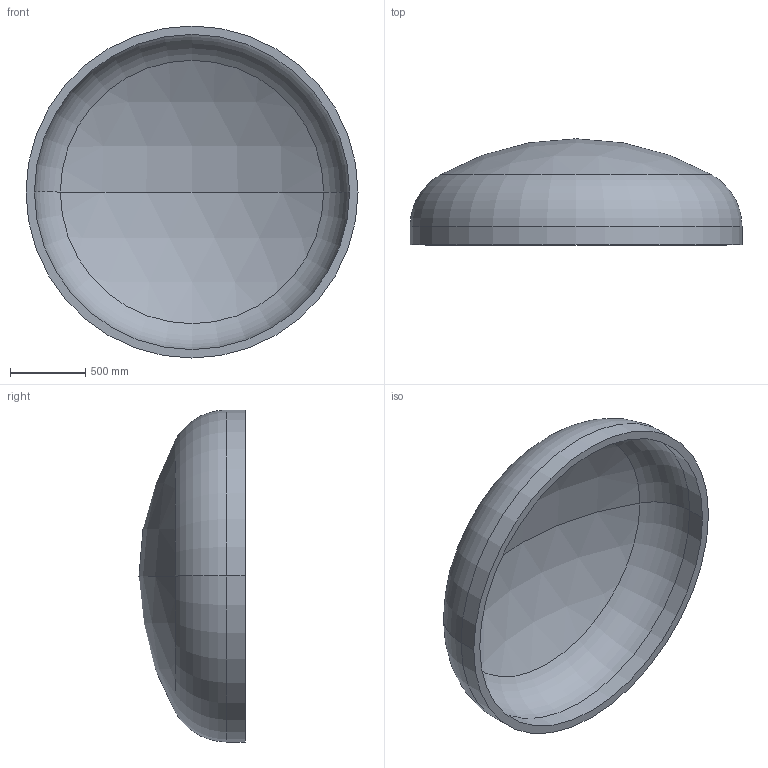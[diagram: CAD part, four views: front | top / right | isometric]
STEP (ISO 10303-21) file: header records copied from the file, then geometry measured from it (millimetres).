
FILE_DESCRIPTION (( 'STEP AP203' ), '1' );
FILE_NAME ('DIN 28013 Korbbogenform_-_Boden DIN 28013 - 2200 x 120 - I - s=56.step', '2016-07-01T14:42:14', ( '' ), ( '' ), 'SwSTEP 2.0', 'SolidWorks 2013', '' );
FILE_SCHEMA (( 'CONFIG_CONTROL_DESIGN' ));
Length unit declared in the file: millimetre
Products named in the file (1): DIN 28013 Korbbogenform_-_Boden DIN 28013 - 2200 x 120 - I - s=56
Bounding box: 2200 x 702.8 x 2200 mm (x, y, z)
Volume: 330615290.5 mm3; surface area: 12191445.4 mm2
Topology: 1 solids, 1 shells, 13 faces, 24 edges, 14 vertices
Faces by surface type: torus 4, cylinder 4, sphere 4, plane 1
Entity records: 407 total; most frequent: DIRECTION 72, CARTESIAN_POINT 52, ORIENTED_EDGE 48, AXIS2_PLACEMENT_3D 34, EDGE_CURVE 24, CIRCLE 20, EDGE_LOOP 14, VERTEX_POINT 14
